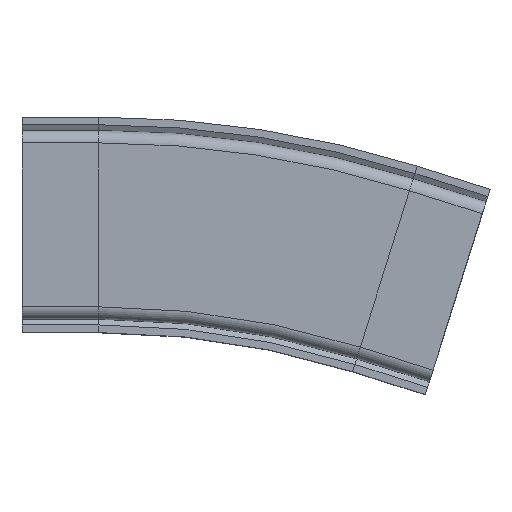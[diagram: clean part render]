
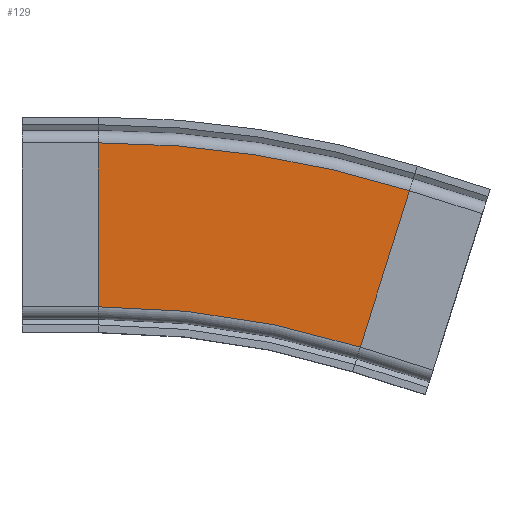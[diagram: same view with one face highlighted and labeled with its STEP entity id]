
A CAD part, top view. The second image highlights one B-rep face of the part: STEP entity #129.
In plain terms, the highlighted planar face has unit normal (0, 0, 1).
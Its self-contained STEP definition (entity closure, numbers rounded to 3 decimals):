
#5 = DIRECTION ( 'NONE',  ( 0., 0., 1. ) ) ;
#55 = CARTESIAN_POINT ( 'NONE',  ( 177.423, -64.151, 42.5 ) ) ;
#129 = ADVANCED_FACE ( 'NONE', ( #5235 ), #5317, .F. ) ;
#179 = AXIS2_PLACEMENT_3D ( 'NONE', #4362, #5, #3488 ) ;
#308 = DIRECTION ( 'NONE',  ( 0., -1., 0. ) ) ;
#417 = CARTESIAN_POINT ( 'NONE',  ( 40., 43., 42.5 ) ) ;
#562 = EDGE_CURVE ( 'NONE', #2557, #5483, #5363, .T. ) ;
#922 = EDGE_CURVE ( 'NONE', #5483, #962, #3327, .T. ) ;
#962 = VERTEX_POINT ( 'NONE', #3414 ) ;
#1153 = CARTESIAN_POINT ( 'NONE',  ( 40., 0., 42.5 ) ) ;
#1457 = ORIENTED_EDGE ( 'NONE', *, *, #922, .T. ) ;
#1529 = DIRECTION ( 'NONE',  ( 0.301, 0.954, 0. ) ) ;
#1806 = VERTEX_POINT ( 'NONE', #3112 ) ;
#1875 = ORIENTED_EDGE ( 'NONE', *, *, #4020, .T. ) ;
#2108 = CARTESIAN_POINT ( 'NONE',  ( 40., -500., 42.5 ) ) ;
#2140 = EDGE_CURVE ( 'NONE', #1806, #962, #3585, .T. ) ;
#2311 = VECTOR ( 'NONE', #1529, 1000. ) ;
#2557 = VERTEX_POINT ( 'NONE', #4557 ) ;
#2716 = DIRECTION ( 'NONE',  ( -1., 0., 0. ) ) ;
#3112 = CARTESIAN_POINT ( 'NONE',  ( 177.423, -64.151, 42.5 ) ) ;
#3136 = DIRECTION ( 'NONE',  ( 0., 0., -1. ) ) ;
#3320 = EDGE_LOOP ( 'NONE', ( #1457, #4460, #1875, #3655 ) ) ;
#3327 = LINE ( 'NONE', #1153, #4340 ) ;
#3414 = CARTESIAN_POINT ( 'NONE',  ( 40., -43., 42.5 ) ) ;
#3488 = DIRECTION ( 'NONE',  ( 1., 0., 0. ) ) ;
#3585 = CIRCLE ( 'NONE', #179, 457. ) ;
#3655 = ORIENTED_EDGE ( 'NONE', *, *, #562, .T. ) ;
#3713 = CARTESIAN_POINT ( 'NONE',  ( 177.423, -64.151, 42.5 ) ) ;
#3778 = AXIS2_PLACEMENT_3D ( 'NONE', #2108, #3863, #4360 ) ;
#3863 = DIRECTION ( 'NONE',  ( 0., 0., 1. ) ) ;
#4020 = EDGE_CURVE ( 'NONE', #1806, #2557, #5198, .T. ) ;
#4340 = VECTOR ( 'NONE', #308, 1000. ) ;
#4360 = DIRECTION ( 'NONE',  ( 1., 0., 0. ) ) ;
#4362 = CARTESIAN_POINT ( 'NONE',  ( 40., -500., 42.5 ) ) ;
#4460 = ORIENTED_EDGE ( 'NONE', *, *, #2140, .F. ) ;
#4557 = CARTESIAN_POINT ( 'NONE',  ( 203.283, 17.868, 42.5 ) ) ;
#5198 = LINE ( 'NONE', #3713, #2311 ) ;
#5235 = FACE_OUTER_BOUND ( 'NONE', #3320, .T. ) ;
#5317 = PLANE ( 'NONE',  #5523 ) ;
#5363 = CIRCLE ( 'NONE', #3778, 543. ) ;
#5483 = VERTEX_POINT ( 'NONE', #417 ) ;
#5523 = AXIS2_PLACEMENT_3D ( 'NONE', #55, #3136, #2716 ) ;
